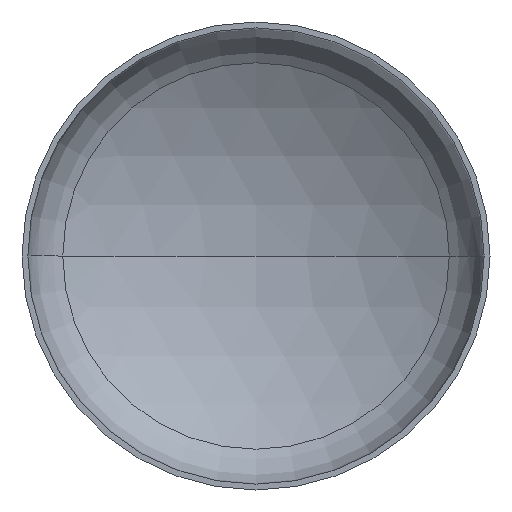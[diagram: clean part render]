
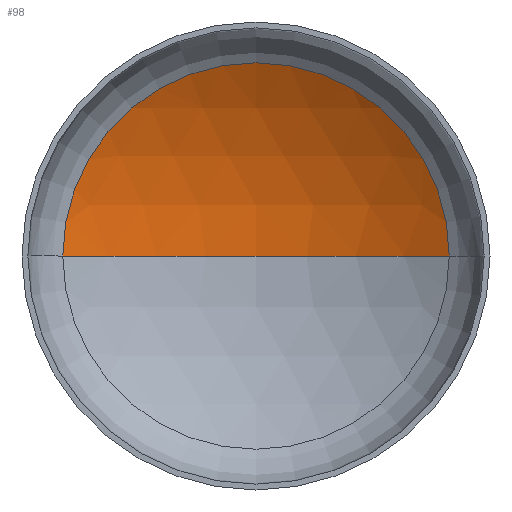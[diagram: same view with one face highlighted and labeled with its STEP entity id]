
A CAD part, front view. The second image highlights one B-rep face of the part: STEP entity #98.
In plain terms, the highlighted spherical face has radius 1920 mm.
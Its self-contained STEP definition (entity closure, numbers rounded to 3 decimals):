
#4 = AXIS2_PLACEMENT_3D ( 'NONE', #78, #290, #153 ) ;
#6 = EDGE_LOOP ( 'NONE', ( #124, #53, #102 ) ) ;
#10 = AXIS2_PLACEMENT_3D ( 'NONE', #213, #212, #211 ) ;
#21 = AXIS2_PLACEMENT_3D ( 'NONE', #325, #320, #323 ) ;
#36 = VERTEX_POINT ( 'NONE', #200 ) ;
#53 = ORIENTED_EDGE ( 'NONE', *, *, #390, .T. ) ;
#57 = AXIS2_PLACEMENT_3D ( 'NONE', #371, #297, #233 ) ;
#78 = CARTESIAN_POINT ( 'NONE',  ( 0., -1237.592, 0. ) ) ;
#79 = VERTEX_POINT ( 'NONE', #288 ) ;
#98 = ADVANCED_FACE ( 'NONE', ( #238 ), #294, .F. ) ;
#102 = ORIENTED_EDGE ( 'NONE', *, *, #329, .T. ) ;
#124 = ORIENTED_EDGE ( 'NONE', *, *, #357, .F. ) ;
#125 = VERTEX_POINT ( 'NONE', #242 ) ;
#153 = DIRECTION ( 'NONE',  ( -1., 0., 0. ) ) ;
#176 = CIRCLE ( 'NONE', #4, 1920. ) ;
#200 = CARTESIAN_POINT ( 'NONE',  ( 990.968, 406.909, 0. ) ) ;
#211 = DIRECTION ( 'NONE',  ( 1., 0., 0. ) ) ;
#212 = DIRECTION ( 'NONE',  ( 0., 0., 1. ) ) ;
#213 = CARTESIAN_POINT ( 'NONE',  ( 0., -1237.592, 0. ) ) ;
#233 = DIRECTION ( 'NONE',  ( -1., 0., 0. ) ) ;
#238 = FACE_OUTER_BOUND ( 'NONE', #6, .T. ) ;
#242 = CARTESIAN_POINT ( 'NONE',  ( 0., 682.408, 0. ) ) ;
#288 = CARTESIAN_POINT ( 'NONE',  ( -990.968, 406.909, 0. ) ) ;
#290 = DIRECTION ( 'NONE',  ( 0., 0., -1. ) ) ;
#294 = SPHERICAL_SURFACE ( 'NONE', #57, 1920. ) ;
#297 = DIRECTION ( 'NONE',  ( 0., 0., -1. ) ) ;
#307 = CIRCLE ( 'NONE', #10, 1920. ) ;
#320 = DIRECTION ( 'NONE',  ( 0., -1., 0. ) ) ;
#323 = DIRECTION ( 'NONE',  ( 1., 0., 0. ) ) ;
#325 = CARTESIAN_POINT ( 'NONE',  ( 0., 406.909, 0. ) ) ;
#329 = EDGE_CURVE ( 'NONE', #36, #79, #378, .T. ) ;
#357 = EDGE_CURVE ( 'NONE', #125, #79, #307, .T. ) ;
#371 = CARTESIAN_POINT ( 'NONE',  ( 0., -1237.592, 0. ) ) ;
#378 = CIRCLE ( 'NONE', #21, 990.968 ) ;
#390 = EDGE_CURVE ( 'NONE', #125, #36, #176, .T. ) ;
